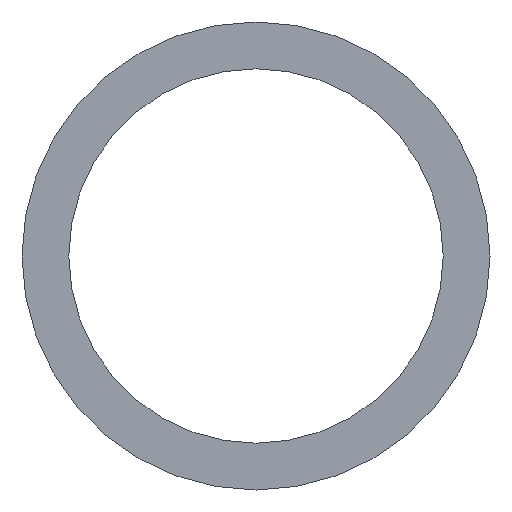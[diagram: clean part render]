
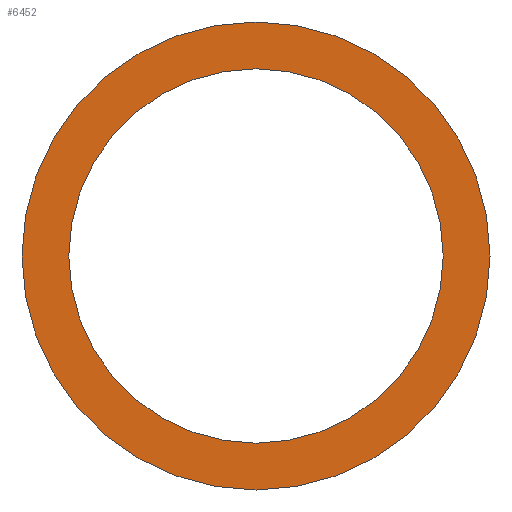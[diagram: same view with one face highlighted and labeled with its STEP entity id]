
A CAD part, front view. The second image highlights one B-rep face of the part: STEP entity #6452.
In plain terms, the highlighted planar face has unit normal (0, -1, 0).
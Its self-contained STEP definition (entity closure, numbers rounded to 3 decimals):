
#219 = VERTEX_POINT ( 'NONE', #2361 ) ;
#265 = CIRCLE ( 'NONE', #2246, 162.5 ) ;
#412 = CARTESIAN_POINT ( 'NONE',  ( 0., -37.5, 130. ) ) ;
#433 = CARTESIAN_POINT ( 'NONE',  ( 0., -37.5, -162.5 ) ) ;
#781 = DIRECTION ( 'NONE',  ( 0., -1., 0. ) ) ;
#1209 = AXIS2_PLACEMENT_3D ( 'NONE', #1863, #781, #4488 ) ;
#1416 = VERTEX_POINT ( 'NONE', #433 ) ;
#1702 = CIRCLE ( 'NONE', #1209, 130. ) ;
#1863 = CARTESIAN_POINT ( 'NONE',  ( 0., -37.5, 0. ) ) ;
#1971 = DIRECTION ( 'NONE',  ( 0., 1., 0. ) ) ;
#2142 = CARTESIAN_POINT ( 'NONE',  ( 0., -37.5, 0. ) ) ;
#2192 = DIRECTION ( 'NONE',  ( 0., 0., -1. ) ) ;
#2221 = DIRECTION ( 'NONE',  ( 0., -1., 0. ) ) ;
#2246 = AXIS2_PLACEMENT_3D ( 'NONE', #3249, #4331, #6995 ) ;
#2290 = EDGE_CURVE ( 'NONE', #3272, #6498, #1702, .T. ) ;
#2361 = CARTESIAN_POINT ( 'NONE',  ( 0., -37.5, 162.5 ) ) ;
#2609 = CARTESIAN_POINT ( 'NONE',  ( 0., -37.5, -130. ) ) ;
#2811 = CIRCLE ( 'NONE', #4367, 130. ) ;
#3103 = EDGE_CURVE ( 'NONE', #1416, #219, #265, .T. ) ;
#3249 = CARTESIAN_POINT ( 'NONE',  ( 0., -37.5, 0. ) ) ;
#3272 = VERTEX_POINT ( 'NONE', #3405 ) ;
#3405 = CARTESIAN_POINT ( 'NONE',  ( 0., -37.5, 130. ) ) ;
#3532 = EDGE_CURVE ( 'NONE', #6498, #3272, #2811, .T. ) ;
#3750 = ORIENTED_EDGE ( 'NONE', *, *, #3532, .F. ) ;
#4200 = PLANE ( 'NONE',  #5007 ) ;
#4302 = ORIENTED_EDGE ( 'NONE', *, *, #2290, .F. ) ;
#4331 = DIRECTION ( 'NONE',  ( 0., -1., 0. ) ) ;
#4367 = AXIS2_PLACEMENT_3D ( 'NONE', #2142, #2221, #2192 ) ;
#4488 = DIRECTION ( 'NONE',  ( 0., 0., -1. ) ) ;
#4748 = CIRCLE ( 'NONE', #6206, 162.5 ) ;
#5007 = AXIS2_PLACEMENT_3D ( 'NONE', #412, #1971, #6886 ) ;
#5569 = FACE_BOUND ( 'NONE', #6993, .T. ) ;
#5787 = ORIENTED_EDGE ( 'NONE', *, *, #6876, .T. ) ;
#6206 = AXIS2_PLACEMENT_3D ( 'NONE', #6491, #6442, #7024 ) ;
#6438 = FACE_OUTER_BOUND ( 'NONE', #6729, .T. ) ;
#6442 = DIRECTION ( 'NONE',  ( 0., -1., 0. ) ) ;
#6452 = ADVANCED_FACE ( 'NONE', ( #5569, #6438 ), #4200, .F. ) ;
#6491 = CARTESIAN_POINT ( 'NONE',  ( 0., -37.5, 0. ) ) ;
#6498 = VERTEX_POINT ( 'NONE', #2609 ) ;
#6683 = ORIENTED_EDGE ( 'NONE', *, *, #3103, .T. ) ;
#6729 = EDGE_LOOP ( 'NONE', ( #6683, #5787 ) ) ;
#6876 = EDGE_CURVE ( 'NONE', #219, #1416, #4748, .T. ) ;
#6886 = DIRECTION ( 'NONE',  ( 0., 0., 1. ) ) ;
#6993 = EDGE_LOOP ( 'NONE', ( #3750, #4302 ) ) ;
#6995 = DIRECTION ( 'NONE',  ( 0., 0., -1. ) ) ;
#7024 = DIRECTION ( 'NONE',  ( 0., 0., -1. ) ) ;
